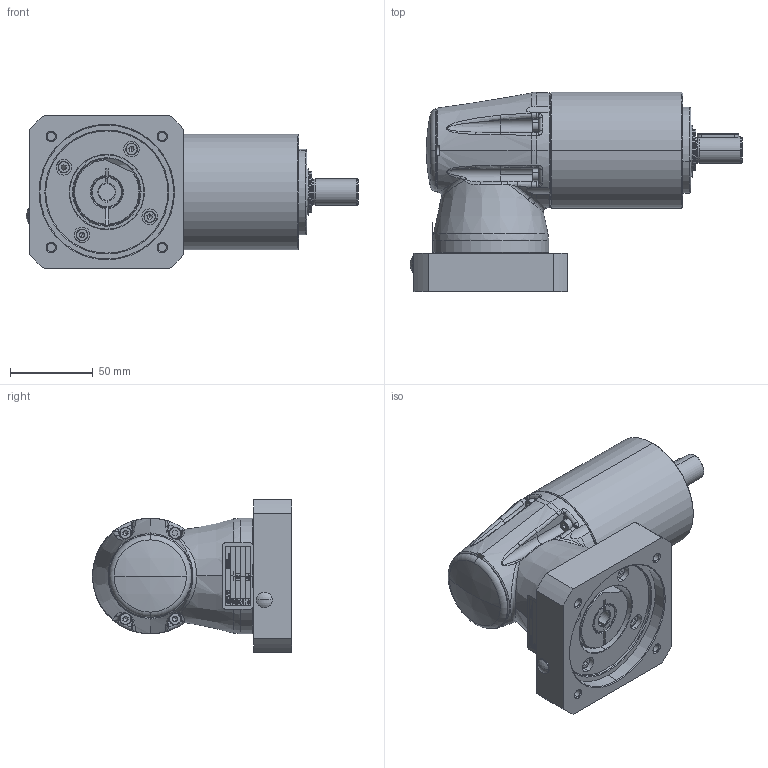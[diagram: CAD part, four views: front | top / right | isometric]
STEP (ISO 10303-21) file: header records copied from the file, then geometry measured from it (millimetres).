
FILE_DESCRIPTION (( 'STEP AP214' ), '1' );
FILE_NAME ('RL-010-RRR-FFF-MMM-S-LL-XXX-BXX-0000.STEP', '2019-10-30T15:04:51', ( '' ), ( '' ), 'SwSTEP 2.0', 'SolidWorks 2019', '' );
FILE_SCHEMA (( 'AUTOMOTIVE_DESIGN' ));
Length unit declared in the file: millimetre
Products named in the file (1): RL-010-RRR-FFF-MMM-S-LL-XXX-BXX-0000
Bounding box: 200.89 x 120.5 x 93 mm (x, y, z)
Surface area: 87636.2 mm2 (no closed solid volume)
Topology: 0 solids, 79 shells, 526 faces, 2607 edges, 2138 vertices
Faces by surface type: plane 187, cylinder 121, cone 86, bspline 71, torus 57, sphere 4
Entity records: 42383 total; most frequent: CARTESIAN_POINT 18029, ORIENTED_EDGE 3523, DIRECTION 3149, EDGE_CURVE 2595, VERTEX_POINT 2138, VECTOR 1143, LINE 1143, AXIS2_PLACEMENT_3D 1003
